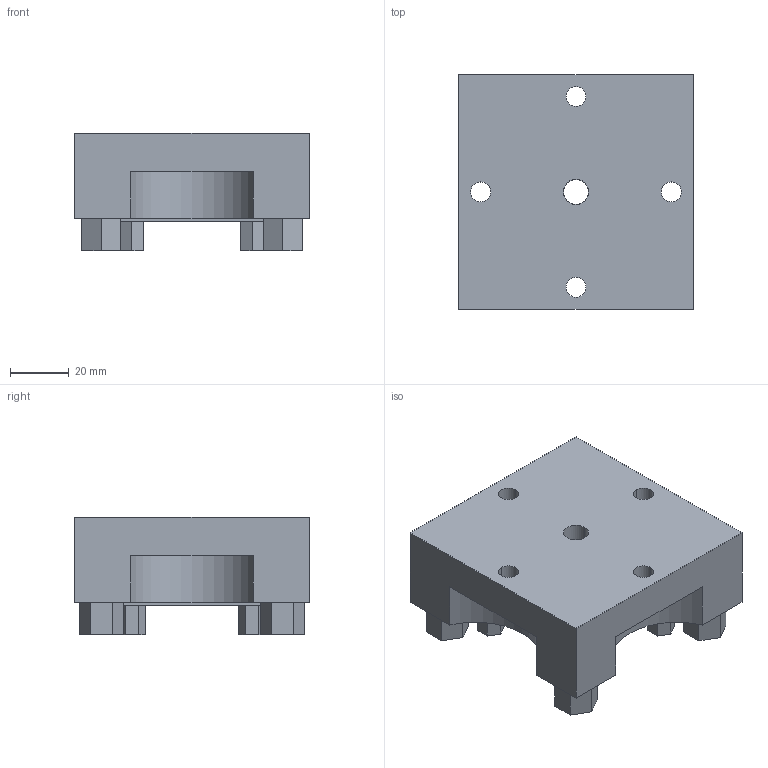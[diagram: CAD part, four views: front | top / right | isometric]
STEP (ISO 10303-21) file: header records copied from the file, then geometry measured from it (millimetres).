
FILE_DESCRIPTION(('STEP AP214'),'1');
FILE_NAME('cctmp_E9092AE0-85A1-4578-8040-90DB42E00193_2019_10_9_15_33_36_875..stp','2019-10-09T13:33:36',('Meusburger Georg GmbH & Co KG'),('CADClick - www.CADClick.com'),'Spatial InterOp 3D',' ','unknown authorization');
FILE_SCHEMA(('AUTOMOTIVE_DESIGN { 1 0 10303 214 1 1 1 1 }'));
Length unit declared in the file: millimetre
Products named in the file (1): HER 1654_65
Bounding box: 80 x 80 x 40 mm (x, y, z)
Volume: 165482.2 mm3; surface area: 28169.6 mm2
Topology: 1 solids, 1 shells, 114 faces, 296 edges, 194 vertices
Faces by surface type: plane 96, cylinder 16, cone 2
Entity records: 4390 total; most frequent: CARTESIAN_POINT 605, ORIENTED_EDGE 592, DIRECTION 560, EDGE_CURVE 296, LINE 262, VECTOR 262, VERTEX_POINT 194, AXIS2_PLACEMENT_3D 149
